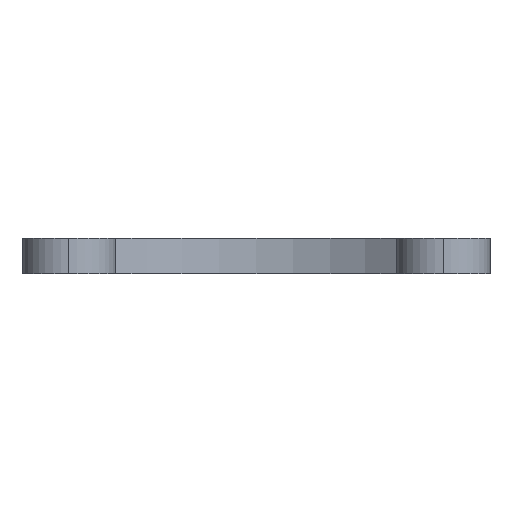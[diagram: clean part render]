
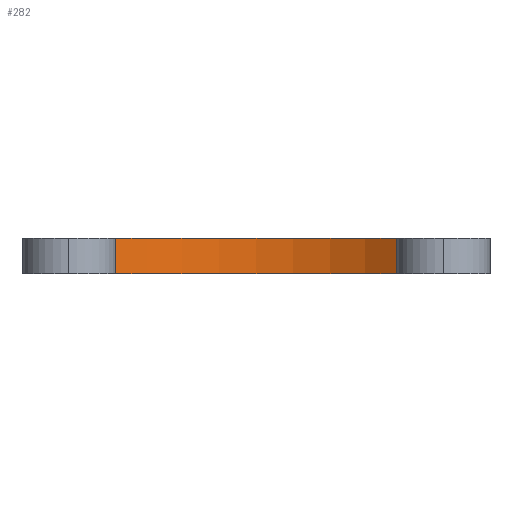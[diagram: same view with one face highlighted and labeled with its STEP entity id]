
A CAD part, left-side view. The second image highlights one B-rep face of the part: STEP entity #282.
In plain terms, the highlighted cylindrical face has radius 10 mm (diameter 20 mm), a partial arc.
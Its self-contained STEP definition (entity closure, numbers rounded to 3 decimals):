
#31 = CARTESIAN_POINT ( 'NONE',  ( 0., -6., 1.5 ) ) ;
#32 = CARTESIAN_POINT ( 'NONE',  ( 0., 6., 1.5 ) ) ;
#51 = DIRECTION ( 'NONE',  ( 0., 0., -1. ) ) ;
#60 = CARTESIAN_POINT ( 'NONE',  ( 0., 6., 0. ) ) ;
#69 = VERTEX_POINT ( 'NONE', #536 ) ;
#96 = DIRECTION ( 'NONE',  ( 0., 0., -1. ) ) ;
#102 = DIRECTION ( 'NONE',  ( -1., 0., 0. ) ) ;
#104 = CARTESIAN_POINT ( 'NONE',  ( -8., 0., 1.5 ) ) ;
#150 = DIRECTION ( 'NONE',  ( -1., 0., 0. ) ) ;
#151 = DIRECTION ( 'NONE',  ( 0., 0., -1. ) ) ;
#153 = CARTESIAN_POINT ( 'NONE',  ( -8., 0., 0. ) ) ;
#197 = VECTOR ( 'NONE', #51, 1000. ) ;
#198 = LINE ( 'NONE', #31, #197 ) ;
#238 = EDGE_CURVE ( 'NONE', #798, #69, #485, .T. ) ;
#243 = CIRCLE ( 'NONE', #337, 10. ) ;
#277 = VECTOR ( 'NONE', #495, 1000. ) ;
#282 = ADVANCED_FACE ( 'NONE', ( #437 ), #429, .F. ) ;
#300 = LINE ( 'NONE', #874, #277 ) ;
#308 = ORIENTED_EDGE ( 'NONE', *, *, #710, .F. ) ;
#337 = AXIS2_PLACEMENT_3D ( 'NONE', #530, #541, #542 ) ;
#402 = ORIENTED_EDGE ( 'NONE', *, *, #776, .F. ) ;
#429 = CYLINDRICAL_SURFACE ( 'NONE', #681, 10. ) ;
#437 = FACE_OUTER_BOUND ( 'NONE', #861, .T. ) ;
#468 = AXIS2_PLACEMENT_3D ( 'NONE', #153, #151, #150 ) ;
#485 = CIRCLE ( 'NONE', #468, 10. ) ;
#495 = DIRECTION ( 'NONE',  ( 0., 0., -1. ) ) ;
#530 = CARTESIAN_POINT ( 'NONE',  ( -8., 0., 1.5 ) ) ;
#536 = CARTESIAN_POINT ( 'NONE',  ( 0., -6., 0. ) ) ;
#541 = DIRECTION ( 'NONE',  ( 0., 0., -1. ) ) ;
#542 = DIRECTION ( 'NONE',  ( -1., 0., 0. ) ) ;
#623 = VERTEX_POINT ( 'NONE', #852 ) ;
#657 = ORIENTED_EDGE ( 'NONE', *, *, #658, .T. ) ;
#658 = EDGE_CURVE ( 'NONE', #754, #798, #300, .T. ) ;
#681 = AXIS2_PLACEMENT_3D ( 'NONE', #104, #96, #102 ) ;
#710 = EDGE_CURVE ( 'NONE', #754, #623, #243, .T. ) ;
#754 = VERTEX_POINT ( 'NONE', #32 ) ;
#776 = EDGE_CURVE ( 'NONE', #623, #69, #198, .T. ) ;
#798 = VERTEX_POINT ( 'NONE', #60 ) ;
#852 = CARTESIAN_POINT ( 'NONE',  ( 0., -6., 1.5 ) ) ;
#861 = EDGE_LOOP ( 'NONE', ( #873, #402, #308, #657 ) ) ;
#873 = ORIENTED_EDGE ( 'NONE', *, *, #238, .T. ) ;
#874 = CARTESIAN_POINT ( 'NONE',  ( 0., 6., 1.5 ) ) ;
